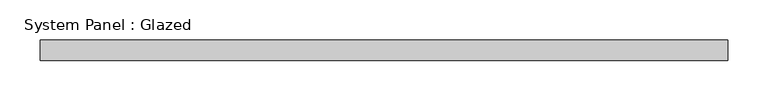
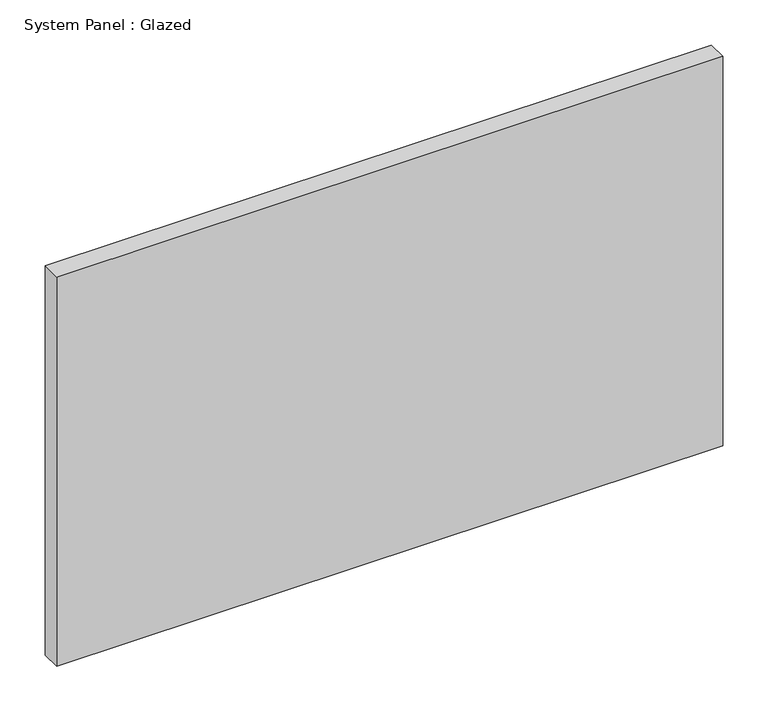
"""IFC4 building model written with IfcOpenShell, lengths in millimetres: plate geometry, System Panel : Glazed."""

from ifc_helpers import new_model, si_unit, origin, origin_with_axes, place, context, project, spatial, polyline, outline, extrude, source, transform, mapped, element, save


def system_panel_glazed_6198c0aa(model_context):
    return source(origin(), model_context, "Body", "SweptSolid", [
        extrude(outline(polyline([(424.9999999, 24.5), (-424.9999999, 24.5), (-424.9999999, 49.5), (424.9999999, 49.5), (424.9999999, 24.5)])), origin_with_axes(), (0.0, 0.0, 1.0), 525.0),
    ])


if __name__ == "__main__":
    model = new_model("IFC4")
    model_context = context("Model", 3, world=origin())
    ifc_project = project(units=[si_unit("LENGTHUNIT", "METRE", prefix="MILLI")], contexts=[model_context])
    site = spatial("IfcSite", under=ifc_project)
    building = spatial("IfcBuilding", under=site)
    placement = place(None, origin())
    system_panel_glazed_shape = system_panel_glazed_6198c0aa(model_context)
    element("IfcPlate", 1, ObjectType="System Panel : Glazed", at=placement, inside=building, context=model_context, shape_type="MappedRepresentation", body=[
        mapped(system_panel_glazed_shape, transform((0.0, 0.0, 0.0), x_axis=(1.0, 0.0, 0.0), y_axis=(0.0, 1.0, 0.0), z_axis=(0.0, 0.0, 1.0))),
    ])
    save(model, "model.ifc")
